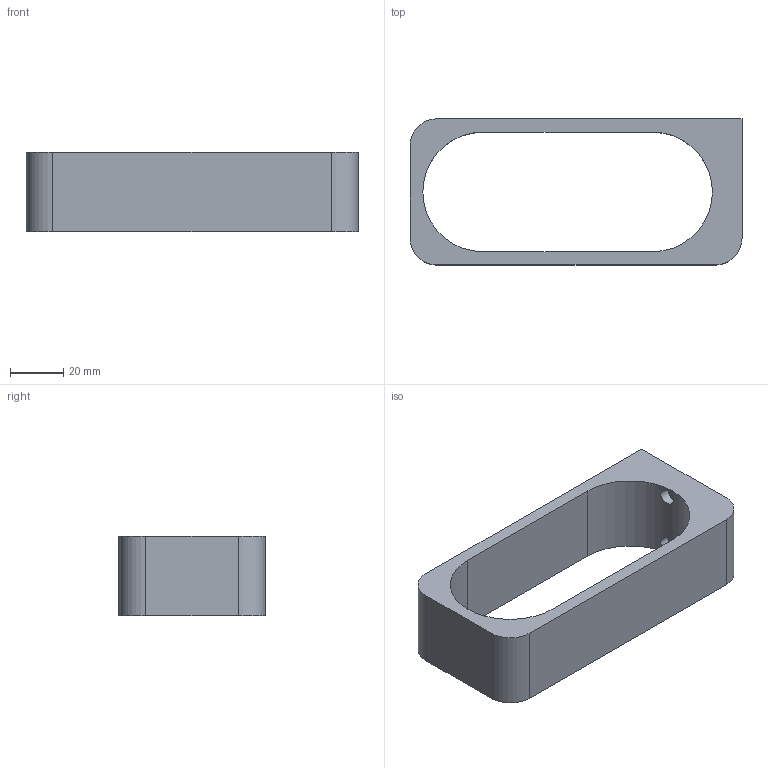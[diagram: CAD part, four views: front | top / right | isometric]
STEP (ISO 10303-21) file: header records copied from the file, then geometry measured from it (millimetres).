
FILE_DESCRIPTION(/* description */ (''),/* implementation_level */ '2;1');
FILE_NAME(/* name */ 'kolko_3_4.step',/* time_stamp */ '2026-04-10T14:36:27+02:00',/* author */ (''),/* organization */ (''),/* preprocessor_version */ 'ST-DEVELOPER v20.1',/* originating_system */ 'Autodesk Translation Framework v14.24.0.0',/* authorisation */ '');
FILE_SCHEMA (('AUTOMOTIVE_DESIGN { 1 0 10303 214 3 1 1 }'));
Length unit declared in the file: millimetre
Products named in the file (1): 2026-04-10-12-35-57-485
Bounding box: 125 x 55 x 30 mm (x, y, z)
Volume: 69071 mm3; surface area: 23587.7 mm2
Topology: 1 solids, 1 shells, 23 faces, 59 edges, 40 vertices
Faces by surface type: cylinder 11, plane 11, torus 1
Full cylindrical faces by diameter (mm): 3.5 x2, 6 x2
Entity records: 805 total; most frequent: CARTESIAN_POINT 191, DIRECTION 125, ORIENTED_EDGE 118, EDGE_CURVE 59, AXIS2_PLACEMENT_3D 46, VERTEX_POINT 40, LINE 33, VECTOR 33
